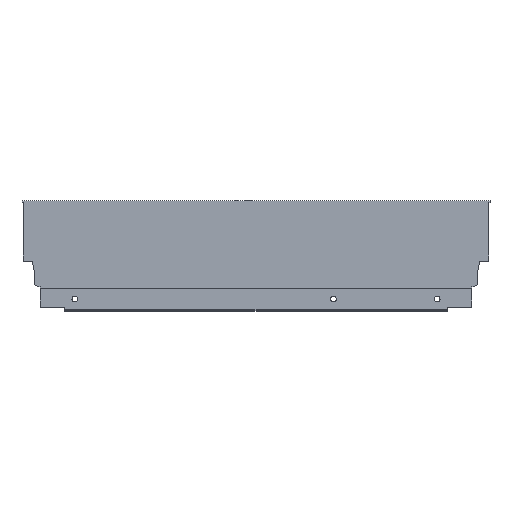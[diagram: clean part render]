
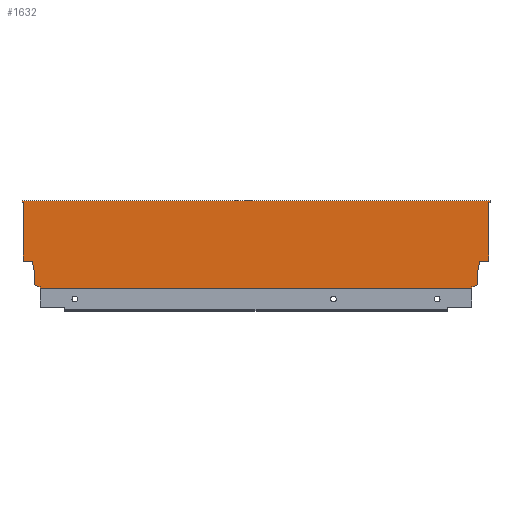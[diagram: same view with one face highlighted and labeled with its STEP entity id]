
A CAD part, top view. The second image highlights one B-rep face of the part: STEP entity #1632.
In plain terms, the highlighted planar face has unit normal (0, 0, 1).
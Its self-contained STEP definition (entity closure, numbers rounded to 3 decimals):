
#8 = FACE_OUTER_BOUND ( 'NONE', #268, .T. ) ;
#82 = VECTOR ( 'NONE', #751, 1000. ) ;
#86 = LINE ( 'NONE', #840, #103 ) ;
#91 = VECTOR ( 'NONE', #833, 1000. ) ;
#96 = LINE ( 'NONE', #844, #524 ) ;
#98 = VECTOR ( 'NONE', #837, 1000. ) ;
#99 = LINE ( 'NONE', #836, #98 ) ;
#100 = LINE ( 'NONE', #846, #528 ) ;
#101 = VECTOR ( 'NONE', #841, 1000. ) ;
#103 = VECTOR ( 'NONE', #845, 1000. ) ;
#104 = VECTOR ( 'NONE', #843, 1000. ) ;
#105 = LINE ( 'NONE', #842, #104 ) ;
#106 = LINE ( 'NONE', #832, #101 ) ;
#114 = LINE ( 'NONE', #818, #91 ) ;
#204 = VECTOR ( 'NONE', #853, 1000. ) ;
#205 = LINE ( 'NONE', #856, #1618 ) ;
#268 = EDGE_LOOP ( 'NONE', ( #396, #391, #392, #393, #388, #389, #390, #382, #383, #384, #379, #380, #381, #359, #360, #372, #356, #357 ) ) ;
#283 = LINE ( 'NONE', #746, #82 ) ;
#356 = ORIENTED_EDGE ( 'NONE', *, *, #1296, .F. ) ;
#357 = ORIENTED_EDGE ( 'NONE', *, *, #1294, .F. ) ;
#359 = ORIENTED_EDGE ( 'NONE', *, *, #1300, .F. ) ;
#360 = ORIENTED_EDGE ( 'NONE', *, *, #1298, .F. ) ;
#372 = ORIENTED_EDGE ( 'NONE', *, *, #1260, .F. ) ;
#379 = ORIENTED_EDGE ( 'NONE', *, *, #1305, .F. ) ;
#380 = ORIENTED_EDGE ( 'NONE', *, *, #1303, .F. ) ;
#381 = ORIENTED_EDGE ( 'NONE', *, *, #1302, .F. ) ;
#382 = ORIENTED_EDGE ( 'NONE', *, *, #1304, .F. ) ;
#383 = ORIENTED_EDGE ( 'NONE', *, *, #1307, .F. ) ;
#384 = ORIENTED_EDGE ( 'NONE', *, *, #1317, .T. ) ;
#388 = ORIENTED_EDGE ( 'NONE', *, *, #1313, .F. ) ;
#389 = ORIENTED_EDGE ( 'NONE', *, *, #1312, .F. ) ;
#390 = ORIENTED_EDGE ( 'NONE', *, *, #1309, .F. ) ;
#391 = ORIENTED_EDGE ( 'NONE', *, *, #1308, .F. ) ;
#392 = ORIENTED_EDGE ( 'NONE', *, *, #1315, .T. ) ;
#393 = ORIENTED_EDGE ( 'NONE', *, *, #1306, .T. ) ;
#396 = ORIENTED_EDGE ( 'NONE', *, *, #1311, .F. ) ;
#410 = LINE ( 'NONE', #828, #412 ) ;
#412 = VECTOR ( 'NONE', #829, 1000. ) ;
#414 = VECTOR ( 'NONE', #825, 1000. ) ;
#415 = LINE ( 'NONE', #824, #414 ) ;
#523 = LINE ( 'NONE', #850, #204 ) ;
#524 = VECTOR ( 'NONE', #847, 1000. ) ;
#526 = LINE ( 'NONE', #848, #527 ) ;
#527 = VECTOR ( 'NONE', #849, 1000. ) ;
#528 = VECTOR ( 'NONE', #851, 1000. ) ;
#593 = VERTEX_POINT ( 'NONE', #692 ) ;
#595 = VERTEX_POINT ( 'NONE', #694 ) ;
#598 = VERTEX_POINT ( 'NONE', #698 ) ;
#599 = VERTEX_POINT ( 'NONE', #699 ) ;
#602 = VERTEX_POINT ( 'NONE', #702 ) ;
#604 = VERTEX_POINT ( 'NONE', #704 ) ;
#606 = VERTEX_POINT ( 'NONE', #706 ) ;
#607 = VERTEX_POINT ( 'NONE', #707 ) ;
#617 = VERTEX_POINT ( 'NONE', #717 ) ;
#621 = VERTEX_POINT ( 'NONE', #721 ) ;
#624 = VERTEX_POINT ( 'NONE', #724 ) ;
#625 = VERTEX_POINT ( 'NONE', #725 ) ;
#626 = VERTEX_POINT ( 'NONE', #726 ) ;
#629 = VERTEX_POINT ( 'NONE', #729 ) ;
#630 = VERTEX_POINT ( 'NONE', #730 ) ;
#632 = VERTEX_POINT ( 'NONE', #732 ) ;
#634 = VERTEX_POINT ( 'NONE', #734 ) ;
#635 = VERTEX_POINT ( 'NONE', #735 ) ;
#692 = CARTESIAN_POINT ( 'NONE',  ( -8.9, 2.64, 7.5 ) ) ;
#694 = CARTESIAN_POINT ( 'NONE',  ( -347.996, 0., 7.5 ) ) ;
#698 = CARTESIAN_POINT ( 'NONE',  ( -8.9, 10.765, 7.5 ) ) ;
#699 = CARTESIAN_POINT ( 'NONE',  ( -347.996, 1.146, 7.5 ) ) ;
#702 = CARTESIAN_POINT ( 'NONE',  ( 1., 68., 7.5 ) ) ;
#704 = CARTESIAN_POINT ( 'NONE',  ( -7.06, 21.2, 7.5 ) ) ;
#706 = CARTESIAN_POINT ( 'NONE',  ( -362., 68., 7.5 ) ) ;
#707 = CARTESIAN_POINT ( 'NONE',  ( -361., 21.2, 7.5 ) ) ;
#717 = CARTESIAN_POINT ( 'NONE',  ( 0., 21.2, 7.5 ) ) ;
#721 = CARTESIAN_POINT ( 'NONE',  ( -362., 66.5, 7.5 ) ) ;
#724 = CARTESIAN_POINT ( 'NONE',  ( -352.1, 2.64, 7.5 ) ) ;
#725 = CARTESIAN_POINT ( 'NONE',  ( 0., 66.5, 7.5 ) ) ;
#726 = CARTESIAN_POINT ( 'NONE',  ( -361., 66.5, 7.5 ) ) ;
#729 = CARTESIAN_POINT ( 'NONE',  ( 1., 66.5, 7.5 ) ) ;
#730 = CARTESIAN_POINT ( 'NONE',  ( -13.004, 0., 7.5 ) ) ;
#732 = CARTESIAN_POINT ( 'NONE',  ( -13.004, 1.146, 7.5 ) ) ;
#734 = CARTESIAN_POINT ( 'NONE',  ( -352.1, 10.765, 7.5 ) ) ;
#735 = CARTESIAN_POINT ( 'NONE',  ( -353.94, 21.2, 7.5 ) ) ;
#746 = CARTESIAN_POINT ( 'NONE',  ( 0., 0., 7.5 ) ) ;
#751 = DIRECTION ( 'NONE',  ( 0., -1., 0. ) ) ;
#818 = CARTESIAN_POINT ( 'NONE',  ( 0., 21.2, 7.5 ) ) ;
#824 = CARTESIAN_POINT ( 'NONE',  ( 1., 68., 7.5 ) ) ;
#825 = DIRECTION ( 'NONE',  ( 0., -1., 0. ) ) ;
#828 = CARTESIAN_POINT ( 'NONE',  ( 1., 66.5, 7.5 ) ) ;
#829 = DIRECTION ( 'NONE',  ( -1., 0., 0. ) ) ;
#832 = CARTESIAN_POINT ( 'NONE',  ( -8.9, 10.765, 7.5 ) ) ;
#833 = DIRECTION ( 'NONE',  ( -1., 0., 0. ) ) ;
#836 = CARTESIAN_POINT ( 'NONE',  ( -7.06, 21.2, 7.5 ) ) ;
#837 = DIRECTION ( 'NONE',  ( -0.174, -0.985, 0. ) ) ;
#840 = CARTESIAN_POINT ( 'NONE',  ( -352.1, 2.64, 7.5 ) ) ;
#841 = DIRECTION ( 'NONE',  ( 0., -1., 0. ) ) ;
#842 = CARTESIAN_POINT ( 'NONE',  ( -8.9, 2.64, 7.5 ) ) ;
#843 = DIRECTION ( 'NONE',  ( -0.94, -0.342, 0. ) ) ;
#844 = CARTESIAN_POINT ( 'NONE',  ( -13.004, 1.146, 7.5 ) ) ;
#845 = DIRECTION ( 'NONE',  ( -0.94, 0.342, 0. ) ) ;
#846 = CARTESIAN_POINT ( 'NONE',  ( -347.996, 1.146, 7.5 ) ) ;
#847 = DIRECTION ( 'NONE',  ( 0., -1., 0. ) ) ;
#848 = CARTESIAN_POINT ( 'NONE',  ( -361., 0., 7.5 ) ) ;
#849 = DIRECTION ( 'NONE',  ( 0., -1., 0. ) ) ;
#850 = CARTESIAN_POINT ( 'NONE',  ( -362., 66.5, 7.5 ) ) ;
#851 = DIRECTION ( 'NONE',  ( 0., 1., 0. ) ) ;
#853 = DIRECTION ( 'NONE',  ( 0., 1., 0. ) ) ;
#854 = CARTESIAN_POINT ( 'NONE',  ( -352.1, 10.765, 7.5 ) ) ;
#855 = DIRECTION ( 'NONE',  ( 0., 1., 0. ) ) ;
#856 = CARTESIAN_POINT ( 'NONE',  ( -353.94, 21.2, 7.5 ) ) ;
#858 = CARTESIAN_POINT ( 'NONE',  ( -361., 68., 7.5 ) ) ;
#859 = DIRECTION ( 'NONE',  ( 1., 0., 0. ) ) ;
#860 = CARTESIAN_POINT ( 'NONE',  ( -366., 21.2, 7.5 ) ) ;
#861 = DIRECTION ( 'NONE',  ( -0.174, 0.985, 0. ) ) ;
#863 = DIRECTION ( 'NONE',  ( -1., 0., 0. ) ) ;
#868 = CARTESIAN_POINT ( 'NONE',  ( -362., 66.5, 7.5 ) ) ;
#869 = DIRECTION ( 'NONE',  ( 1., 0., 0. ) ) ;
#872 = CARTESIAN_POINT ( 'NONE',  ( -361., 0., 7.5 ) ) ;
#873 = DIRECTION ( 'NONE',  ( 1., 0., 0. ) ) ;
#1049 = CARTESIAN_POINT ( 'NONE',  ( -361., 0., 7.5 ) ) ;
#1050 = PLANE ( 'NONE',  #1414 ) ;
#1052 = DIRECTION ( 'NONE',  ( 0., 0., 1. ) ) ;
#1053 = DIRECTION ( 'NONE',  ( 1., 0., 0. ) ) ;
#1260 = EDGE_CURVE ( 'NONE', #625, #617, #283, .T. ) ;
#1294 = EDGE_CURVE ( 'NONE', #602, #629, #415, .T. ) ;
#1296 = EDGE_CURVE ( 'NONE', #629, #625, #410, .T. ) ;
#1298 = EDGE_CURVE ( 'NONE', #617, #604, #114, .T. ) ;
#1300 = EDGE_CURVE ( 'NONE', #604, #598, #99, .T. ) ;
#1302 = EDGE_CURVE ( 'NONE', #598, #593, #106, .T. ) ;
#1303 = EDGE_CURVE ( 'NONE', #593, #632, #105, .T. ) ;
#1304 = EDGE_CURVE ( 'NONE', #599, #624, #86, .T. ) ;
#1305 = EDGE_CURVE ( 'NONE', #632, #630, #96, .T. ) ;
#1306 = EDGE_CURVE ( 'NONE', #626, #607, #526, .T. ) ;
#1307 = EDGE_CURVE ( 'NONE', #595, #599, #100, .T. ) ;
#1308 = EDGE_CURVE ( 'NONE', #621, #606, #523, .T. ) ;
#1309 = EDGE_CURVE ( 'NONE', #624, #634, #1623, .T. ) ;
#1311 = EDGE_CURVE ( 'NONE', #606, #602, #1620, .T. ) ;
#1312 = EDGE_CURVE ( 'NONE', #634, #635, #205, .T. ) ;
#1313 = EDGE_CURVE ( 'NONE', #635, #607, #1622, .T. ) ;
#1315 = EDGE_CURVE ( 'NONE', #621, #626, #1615, .T. ) ;
#1317 = EDGE_CURVE ( 'NONE', #595, #630, #1608, .T. ) ;
#1414 = AXIS2_PLACEMENT_3D ( 'NONE', #1049, #1052, #1053 ) ;
#1607 = VECTOR ( 'NONE', #873, 1000. ) ;
#1608 = LINE ( 'NONE', #872, #1607 ) ;
#1615 = LINE ( 'NONE', #868, #1617 ) ;
#1616 = VECTOR ( 'NONE', #863, 1000. ) ;
#1617 = VECTOR ( 'NONE', #869, 1000. ) ;
#1618 = VECTOR ( 'NONE', #861, 1000. ) ;
#1619 = VECTOR ( 'NONE', #859, 1000. ) ;
#1620 = LINE ( 'NONE', #858, #1619 ) ;
#1622 = LINE ( 'NONE', #860, #1616 ) ;
#1623 = LINE ( 'NONE', #854, #1624 ) ;
#1624 = VECTOR ( 'NONE', #855, 1000. ) ;
#1632 = ADVANCED_FACE ( 'NONE', ( #8 ), #1050, .T. ) ;
